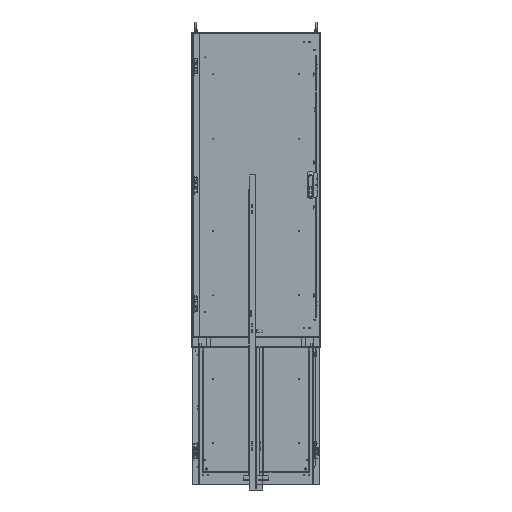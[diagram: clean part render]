
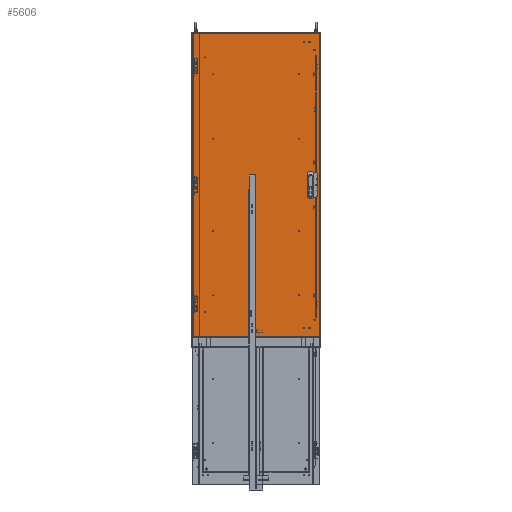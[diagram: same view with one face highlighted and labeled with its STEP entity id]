
A CAD part, front view. The second image highlights one B-rep face of the part: STEP entity #5606.
In plain terms, the highlighted planar face has unit normal (0, -1, 0).
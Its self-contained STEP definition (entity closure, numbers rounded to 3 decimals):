
#5606 = ADVANCED_FACE( '', ( #8551, #8552, #8553, #8554, #8555, #8556 ), #8557, .T. );
#8551 = FACE_BOUND( '', #13530, .T. );
#8552 = FACE_BOUND( '', #13531, .T. );
#8553 = FACE_BOUND( '', #13532, .T. );
#8554 = FACE_OUTER_BOUND( '', #13533, .T. );
#8555 = FACE_BOUND( '', #13534, .T. );
#8556 = FACE_BOUND( '', #13535, .T. );
#8557 = PLANE( '', #13536 );
#13530 = EDGE_LOOP( '', ( #23785, #23786, #23787, #23788 ) );
#13531 = EDGE_LOOP( '', ( #23789 ) );
#13532 = EDGE_LOOP( '', ( #23790, #23791, #23792, #23793 ) );
#13533 = EDGE_LOOP( '', ( #23794, #23795, #23796, #23797 ) );
#13534 = EDGE_LOOP( '', ( #23798, #23799, #23800, #23801 ) );
#13535 = EDGE_LOOP( '', ( #23802 ) );
#13536 = AXIS2_PLACEMENT_3D( '', #23803, #23804, #23805 );
#23785 = ORIENTED_EDGE( '', *, *, #37887, .F. );
#23786 = ORIENTED_EDGE( '', *, *, #37888, .F. );
#23787 = ORIENTED_EDGE( '', *, *, #37889, .F. );
#23788 = ORIENTED_EDGE( '', *, *, #37890, .F. );
#23789 = ORIENTED_EDGE( '', *, *, #37891, .T. );
#23790 = ORIENTED_EDGE( '', *, *, #37892, .F. );
#23791 = ORIENTED_EDGE( '', *, *, #37893, .F. );
#23792 = ORIENTED_EDGE( '', *, *, #37894, .F. );
#23793 = ORIENTED_EDGE( '', *, *, #37895, .F. );
#23794 = ORIENTED_EDGE( '', *, *, #37896, .T. );
#23795 = ORIENTED_EDGE( '', *, *, #37897, .F. );
#23796 = ORIENTED_EDGE( '', *, *, #37898, .F. );
#23797 = ORIENTED_EDGE( '', *, *, #37899, .F. );
#23798 = ORIENTED_EDGE( '', *, *, #37900, .T. );
#23799 = ORIENTED_EDGE( '', *, *, #37901, .T. );
#23800 = ORIENTED_EDGE( '', *, *, #37902, .T. );
#23801 = ORIENTED_EDGE( '', *, *, #37903, .T. );
#23802 = ORIENTED_EDGE( '', *, *, #37904, .T. );
#23803 = CARTESIAN_POINT( '', ( -397.701, 0., -948.531 ) );
#23804 = DIRECTION( '', ( 0., -1., 0. ) );
#23805 = DIRECTION( '', ( 0., 0., -1. ) );
#37887 = EDGE_CURVE( '', #43943, #43944, #43945, .T. );
#37888 = EDGE_CURVE( '', #43946, #43943, #43947, .T. );
#37889 = EDGE_CURVE( '', #43948, #43946, #43949, .T. );
#37890 = EDGE_CURVE( '', #43944, #43948, #43950, .T. );
#37891 = EDGE_CURVE( '', #43951, #43951, #43952, .T. );
#37892 = EDGE_CURVE( '', #43953, #43954, #43955, .T. );
#37893 = EDGE_CURVE( '', #43956, #43953, #43957, .T. );
#37894 = EDGE_CURVE( '', #43958, #43956, #43959, .T. );
#37895 = EDGE_CURVE( '', #43954, #43958, #43960, .T. );
#37896 = EDGE_CURVE( '', #43961, #43962, #43963, .T. );
#37897 = EDGE_CURVE( '', #43964, #43962, #43965, .T. );
#37898 = EDGE_CURVE( '', #43966, #43964, #43967, .T. );
#37899 = EDGE_CURVE( '', #43961, #43966, #43968, .T. );
#37900 = EDGE_CURVE( '', #43969, #43970, #43971, .T. );
#37901 = EDGE_CURVE( '', #43970, #43972, #43973, .T. );
#37902 = EDGE_CURVE( '', #43972, #43974, #43975, .T. );
#37903 = EDGE_CURVE( '', #43974, #43969, #43976, .T. );
#37904 = EDGE_CURVE( '', #43977, #43977, #43978, .T. );
#43943 = VERTEX_POINT( '', #53829 );
#43944 = VERTEX_POINT( '', #53830 );
#43945 = LINE( '', #53831, #53832 );
#43946 = VERTEX_POINT( '', #53833 );
#43947 = LINE( '', #53834, #53835 );
#43948 = VERTEX_POINT( '', #53836 );
#43949 = LINE( '', #53837, #53838 );
#43950 = LINE( '', #53839, #53840 );
#43951 = VERTEX_POINT( '', #53841 );
#43952 = CIRCLE( '', #53842, 4.013 );
#43953 = VERTEX_POINT( '', #53843 );
#43954 = VERTEX_POINT( '', #53844 );
#43955 = LINE( '', #53845, #53846 );
#43956 = VERTEX_POINT( '', #53847 );
#43957 = LINE( '', #53848, #53849 );
#43958 = VERTEX_POINT( '', #53850 );
#43959 = LINE( '', #53851, #53852 );
#43960 = LINE( '', #53853, #53854 );
#43961 = VERTEX_POINT( '', #53855 );
#43962 = VERTEX_POINT( '', #53856 );
#43963 = LINE( '', #53857, #53858 );
#43964 = VERTEX_POINT( '', #53859 );
#43965 = LINE( '', #53860, #53861 );
#43966 = VERTEX_POINT( '', #53862 );
#43967 = LINE( '', #53863, #53864 );
#43968 = LINE( '', #53865, #53866 );
#43969 = VERTEX_POINT( '', #53867 );
#43970 = VERTEX_POINT( '', #53868 );
#43971 = LINE( '', #53869, #53870 );
#43972 = VERTEX_POINT( '', #53871 );
#43973 = LINE( '', #53872, #53873 );
#43974 = VERTEX_POINT( '', #53874 );
#43975 = LINE( '', #53875, #53876 );
#43976 = LINE( '', #53877, #53878 );
#43977 = VERTEX_POINT( '', #53879 );
#43978 = CIRCLE( '', #53880, 4.013 );
#53829 = CARTESIAN_POINT( '', ( -350.183, 0., 75.006 ) );
#53830 = CARTESIAN_POINT( '', ( -350.183, 0., 24.994 ) );
#53831 = CARTESIAN_POINT( '', ( -350.183, 0., 75.006 ) );
#53832 = VECTOR( '', #68142, 1000. );
#53833 = CARTESIAN_POINT( '', ( -325.189, 0., 75.006 ) );
#53834 = CARTESIAN_POINT( '', ( -325.189, 0., 75.006 ) );
#53835 = VECTOR( '', #68143, 1000. );
#53836 = CARTESIAN_POINT( '', ( -325.189, 0., 24.994 ) );
#53837 = CARTESIAN_POINT( '', ( -325.189, 0., 24.994 ) );
#53838 = VECTOR( '', #68144, 1000. );
#53839 = CARTESIAN_POINT( '', ( -350.183, 0., 24.994 ) );
#53840 = VECTOR( '', #68145, 1000. );
#53841 = CARTESIAN_POINT( '', ( -369.664, 0., 35.001 ) );
#53842 = AXIS2_PLACEMENT_3D( '', #68146, #68147, #68148 );
#53843 = CARTESIAN_POINT( '', ( -374.198, 0., 15.875 ) );
#53844 = CARTESIAN_POINT( '', ( -374.198, 0., -15.875 ) );
#53845 = CARTESIAN_POINT( '', ( -374.198, 0., 15.875 ) );
#53846 = VECTOR( '', #68149, 1000. );
#53847 = CARTESIAN_POINT( '', ( -369.194, 0., 15.875 ) );
#53848 = CARTESIAN_POINT( '', ( -369.194, 0., 15.875 ) );
#53849 = VECTOR( '', #68150, 1000. );
#53850 = CARTESIAN_POINT( '', ( -369.194, 0., -15.875 ) );
#53851 = CARTESIAN_POINT( '', ( -369.194, 0., -15.875 ) );
#53852 = VECTOR( '', #68151, 1000. );
#53853 = CARTESIAN_POINT( '', ( -374.198, 0., -15.875 ) );
#53854 = VECTOR( '', #68152, 1000. );
#53855 = CARTESIAN_POINT( '', ( 394.957, 0., 945.788 ) );
#53856 = CARTESIAN_POINT( '', ( -394.957, 0., 945.788 ) );
#53857 = CARTESIAN_POINT( '', ( 394.957, 0., 945.788 ) );
#53858 = VECTOR( '', #68153, 1000. );
#53859 = CARTESIAN_POINT( '', ( -394.957, 0., -945.788 ) );
#53860 = CARTESIAN_POINT( '', ( -394.957, 0., -945.788 ) );
#53861 = VECTOR( '', #68154, 1000. );
#53862 = CARTESIAN_POINT( '', ( 394.957, 0., -945.788 ) );
#53863 = CARTESIAN_POINT( '', ( 394.957, 0., -945.788 ) );
#53864 = VECTOR( '', #68155, 1000. );
#53865 = CARTESIAN_POINT( '', ( 394.957, 0., 945.788 ) );
#53866 = VECTOR( '', #68156, 1000. );
#53867 = CARTESIAN_POINT( '', ( -350.183, 0., -25.019 ) );
#53868 = CARTESIAN_POINT( '', ( -325.189, 0., -25.019 ) );
#53869 = CARTESIAN_POINT( '', ( -350.183, 0., -25.019 ) );
#53870 = VECTOR( '', #68157, 1000. );
#53871 = CARTESIAN_POINT( '', ( -325.189, 0., -75.032 ) );
#53872 = CARTESIAN_POINT( '', ( -325.189, 0., -25.019 ) );
#53873 = VECTOR( '', #68158, 1000. );
#53874 = CARTESIAN_POINT( '', ( -350.183, 0., -75.032 ) );
#53875 = CARTESIAN_POINT( '', ( -325.189, 0., -75.032 ) );
#53876 = VECTOR( '', #68159, 1000. );
#53877 = CARTESIAN_POINT( '', ( -350.183, 0., -75.032 ) );
#53878 = VECTOR( '', #68160, 1000. );
#53879 = CARTESIAN_POINT( '', ( -369.664, 0., -35.001 ) );
#53880 = AXIS2_PLACEMENT_3D( '', #68161, #68162, #68163 );
#68142 = DIRECTION( '', ( 0., 0., -1. ) );
#68143 = DIRECTION( '', ( -1., 0., 0. ) );
#68144 = DIRECTION( '', ( 0., 0., 1. ) );
#68145 = DIRECTION( '', ( 1., 0., 0. ) );
#68146 = CARTESIAN_POINT( '', ( -373.678, 0., 35.001 ) );
#68147 = DIRECTION( '', ( 0., 1., 0. ) );
#68148 = DIRECTION( '', ( 1., 0., 0. ) );
#68149 = DIRECTION( '', ( 0., 0., -1. ) );
#68150 = DIRECTION( '', ( -1., 0., 0. ) );
#68151 = DIRECTION( '', ( 0., 0., 1. ) );
#68152 = DIRECTION( '', ( 1., 0., 0. ) );
#68153 = DIRECTION( '', ( -1., 0., 0. ) );
#68154 = DIRECTION( '', ( 0., 0., 1. ) );
#68155 = DIRECTION( '', ( -1., 0., 0. ) );
#68156 = DIRECTION( '', ( 0., 0., -1. ) );
#68157 = DIRECTION( '', ( 1., 0., 0. ) );
#68158 = DIRECTION( '', ( 0., 0., -1. ) );
#68159 = DIRECTION( '', ( -1., 0., 0. ) );
#68160 = DIRECTION( '', ( 0., 0., 1. ) );
#68161 = CARTESIAN_POINT( '', ( -373.678, 0., -35.001 ) );
#68162 = DIRECTION( '', ( 0., 1., 0. ) );
#68163 = DIRECTION( '', ( 1., 0., 0. ) );
